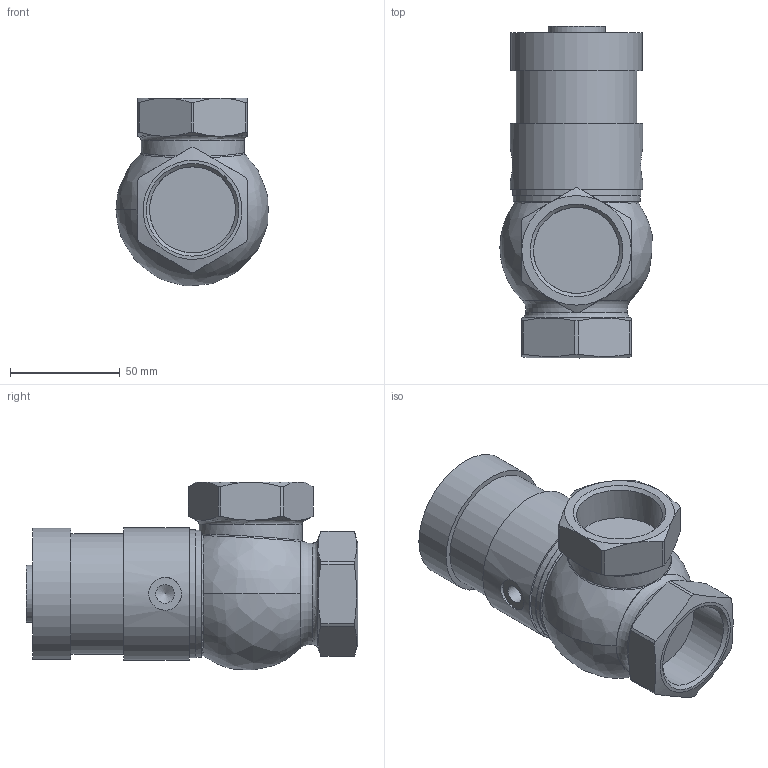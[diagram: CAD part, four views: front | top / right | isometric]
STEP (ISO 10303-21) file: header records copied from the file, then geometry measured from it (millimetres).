
FILE_DESCRIPTION(/* description */ ('STEP AP203'),/* implementation_level */ '2;1');
FILE_NAME(/* name */ 'D:\OneDrive\Disegni Air Matic\Inventor\3D AerFlux base\AerFlux 1114 C- S.stp',/* time_stamp */ '2020-06-08T13:16:49+02:00',/* author */ ('Alex'),/* organization */ (''),/* preprocessor_version */ 'ST-DEVELOPER v16.1',/* originating_system */ 'Autodesk Inventor 2016',/* authorisation */ '');
FILE_SCHEMA (('AUTOMOTIVE_DESIGN { 1 0 10303 214 3 1 1 }'));
Length unit declared in the file: millimetre
Products named in the file (5): 2SAICORPSQBR07; Testa Anteriore AF 114 C no FV; Tubo x rompivuoto1114; Fondello x rompivuoto; AerFlux 11114 C- S
Assembly tree (4 placements, depth 2):
  AerFlux 11114 C- S
    2SAICORPSQBR07
    Testa Anteriore AF 114 C no FV
    Tubo x rompivuoto1114
    Fondello x rompivuoto
Bounding box: 69.47 x 151.5 x 85.72 mm (x, y, z)
Volume: 341317.1 mm3; surface area: 61637.9 mm2
Topology: 4 solids, 4 shells, 93 faces, 224 edges, 146 vertices
Faces by surface type: plane 29, cylinder 29, cone 17, bspline 14, torus 4
Full cylindrical faces by diameter (mm): 8.566 x3, 15 x2, 26 x1, 39.27 x2, 42 x1, 44.3 x1, 47 x1, 50 x1, 55 x1, 58 x1, 58.5 x1, 60 x1, 60.5 x1
Entity records: 4940 total; most frequent: CARTESIAN_POINT 2997, ORIENTED_EDGE 372, DIRECTION 370, EDGE_CURVE 186, AXIS2_PLACEMENT_3D 171, VERTEX_POINT 133, EDGE_LOOP 129, FACE_OUTER_BOUND 93
